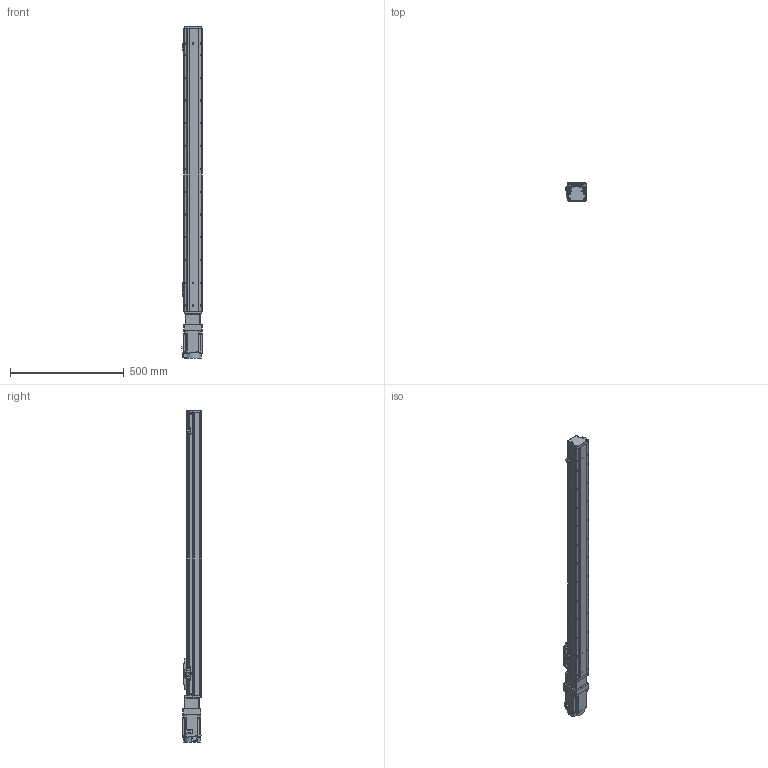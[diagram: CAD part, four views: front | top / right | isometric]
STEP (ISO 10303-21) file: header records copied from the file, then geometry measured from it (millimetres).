
FILE_DESCRIPTION (( 'STEP AP203' ), '1' );
FILE_NAME ('GTH8-1050-BC-M75-C4.step', '2023-02-14T02:18:14', ( '微软用户' ), ( '微软中国' ), 'SwSTEP 2.0', 'SolidWorks 2020', '' );
FILE_SCHEMA (( 'CONFIG_CONTROL_DESIGN' ));
Length unit declared in the file: millimetre
Products named in the file (19): GTH80-013; GTH50-023; GTH8-1050-BC-M75-C4; GBT 70.3-M3℅6; GBT96.1-2002 3×0.8; GTH80-022; BTH-M3X5X6; GTH80-001_1050; GBT 70.1-M3℅6; CTHA86-006-1_CTHA86-006-4; GTH80-003; GBT 70.1-M4×16; CTHA86-013; GTH80-004; GTH80-028; CTHA86-027; GTH80-006; GTH50-024; hg-kn73j_-s100
Assembly tree (60 placements, depth 2):
  GTH8-1050-BC-M75-C4
    GTH80-001_1050
    GTH80-003
    GTH80-004
    GTH80-006
    GTH80-013
    GBT 70.3-M3℅6  x6
    GTH80-022
    GBT 70.1-M3℅6  x14
    GBT 70.1-M4×16  x8
    GTH80-028  x2
    GTH50-024  x3
    GTH50-023  x3
    GBT96.1-2002 3×0.8  x6
    BTH-M3X5X6  x8
    CTHA86-006-1_CTHA86-006-4
    CTHA86-013
    CTHA86-027
    hg-kn73j_-s100
Bounding box: 89.8 x 81.72 x 1457.2 mm (x, y, z)
Volume: 6592374.5 mm3; surface area: 628026.5 mm2
Topology: 62 solids, 62 shells, 2277 faces, 5258 edges, 3208 vertices
Faces by surface type: plane 1185, cylinder 635, cone 285, torus 162, sphere 8, bspline 2
Entity records: 40377 total; most frequent: DIRECTION 6671, CARTESIAN_POINT 6650, ORIENTED_EDGE 6106, EDGE_CURVE 3053, AXIS2_PLACEMENT_3D 2347, LINE 1977, VECTOR 1977, VERTEX_POINT 1921
